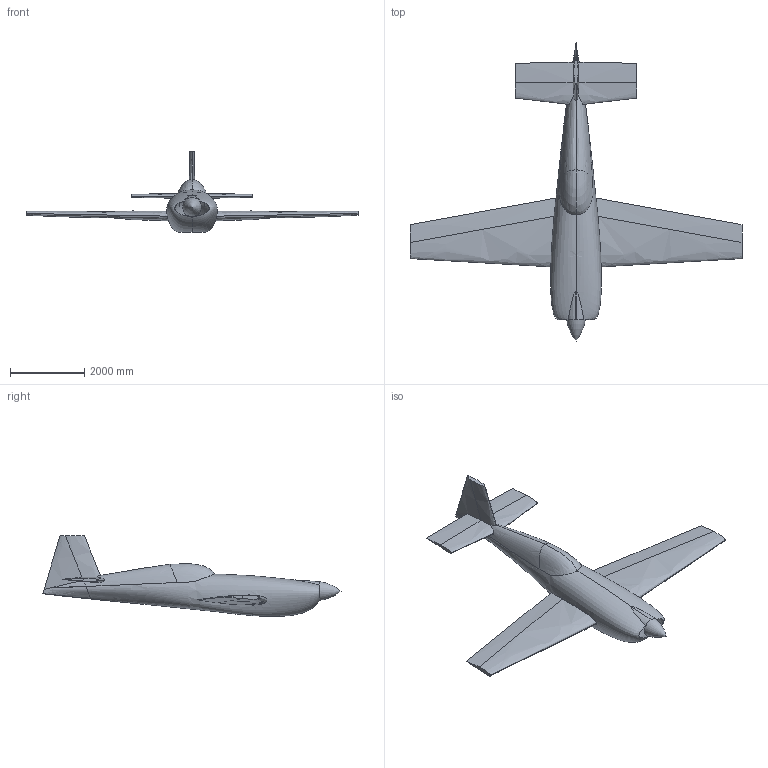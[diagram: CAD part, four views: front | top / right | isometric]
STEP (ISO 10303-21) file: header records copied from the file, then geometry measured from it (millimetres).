
FILE_DESCRIPTION(/* description */ ('STEP AP242','CAx-IF Rec.Pracs.---Representation and Presentation of Product Manufacturing Information (PMI)---4.0---2014-10-13','CAx-IF Rec.Pracs.---3D Tessellated Geometry---0.4---2014-09-14','2;1'),/* implementation_level */ '2;1');
FILE_NAME(/* name */ '6839a72e11c4137bb30fea33',/* time_stamp */ '2025-05-30T12:40:16Z',/* author */ (''),/* organization */ (''),/* preprocessor_version */ 'ST-DEVELOPER v20',/* originating_system */ 'ONSHAPE BY PTC INC, 1.198',/* authorisation */ ' ');
FILE_SCHEMA (('AP242_MANAGED_MODEL_BASED_3D_ENGINEERING_MIM_LF { 1 0 10303 442 1 1 4 }'));
Products named in the file (12): Surface 1; Surface 2; Surface 3; Surface 4; Surface 5; Surface 6; Surface 7; Surface 8; Surface 9; Surface 10; Surface 11; Surface 12
Bounding box: 8951.61 x 8042.32 x 2177.71 mm (x, y, z)
Surface area: 52766953.8 mm2 (no closed solid volume)
Topology: 0 solids, 12 shells, 42 faces, 144 edges, 113 vertices
Faces by surface type: bspline 30, plane 9, cone 2, torus 1
Entity records: 37935 total; most frequent: CARTESIAN_POINT 36473, ORIENTED_EDGE 189, EDGE_CURVE 141, B_SPLINE_CURVE_WITH_KNOTS 112, VERTEX_POINT 112, DIRECTION 84, PRESENTATION_STYLE_ASSIGNMENT 48, SURFACE_STYLE_USAGE 48
